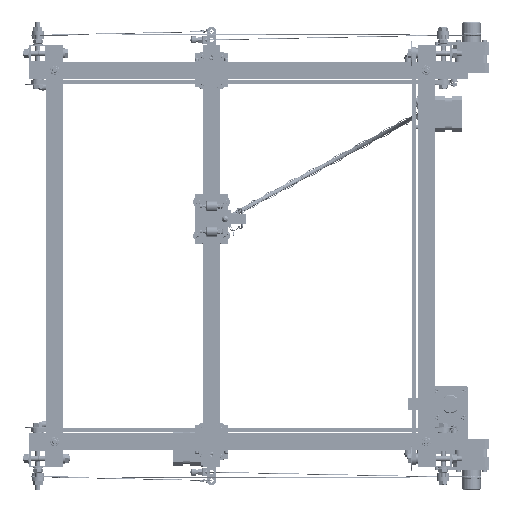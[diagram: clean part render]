
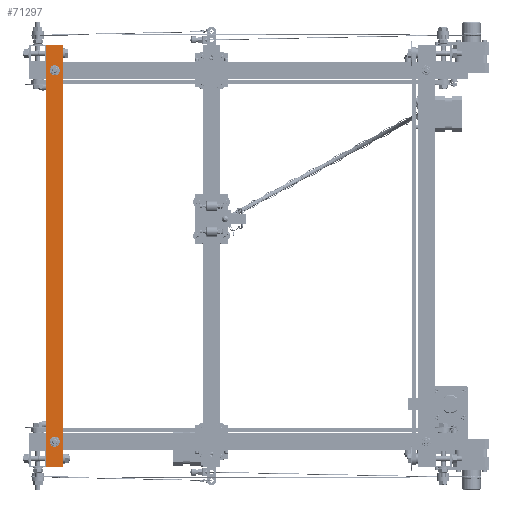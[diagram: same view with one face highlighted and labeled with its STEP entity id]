
A CAD part, front view. The second image highlights one B-rep face of the part: STEP entity #71297.
In plain terms, the highlighted planar face has unit normal (0, -1, 0).
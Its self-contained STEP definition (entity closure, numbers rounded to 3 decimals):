
#678 = DIRECTION ( 'NONE',  ( 1., 0., 0. ) ) ;
#1839 = DIRECTION ( 'NONE',  ( 1., 0., 0. ) ) ;
#2275 = EDGE_CURVE ( 'NONE', #51339, #40775, #56649, .T. ) ;
#3670 = CARTESIAN_POINT ( 'NONE',  ( 0., -10., 223.25 ) ) ;
#5833 = DIRECTION ( 'NONE',  ( 0., 0., 1. ) ) ;
#6580 = FACE_OUTER_BOUND ( 'NONE', #69085, .T. ) ;
#7910 = VECTOR ( 'NONE', #64139, 1000. ) ;
#9268 = VERTEX_POINT ( 'NONE', #30485 ) ;
#9823 = EDGE_CURVE ( 'NONE', #75407, #11825, #11180, .T. ) ;
#10258 = VERTEX_POINT ( 'NONE', #3670 ) ;
#11086 = LINE ( 'NONE', #68873, #57906 ) ;
#11180 = LINE ( 'NONE', #54720, #39817 ) ;
#11825 = VERTEX_POINT ( 'NONE', #63597 ) ;
#12060 = ORIENTED_EDGE ( 'NONE', *, *, #2275, .F. ) ;
#12403 = CIRCLE ( 'NONE', #38873, 3.25 ) ;
#13430 = CARTESIAN_POINT ( 'NONE',  ( 0., -10., -223.25 ) ) ;
#14058 = DIRECTION ( 'NONE',  ( 0., -1., 0. ) ) ;
#15354 = CIRCLE ( 'NONE', #47641, 3.25 ) ;
#16771 = AXIS2_PLACEMENT_3D ( 'NONE', #73873, #37215, #678 ) ;
#19451 = DIRECTION ( 'NONE',  ( 1., 0., 0. ) ) ;
#19533 = EDGE_CURVE ( 'NONE', #26659, #72131, #78657, .T. ) ;
#21339 = CARTESIAN_POINT ( 'NONE',  ( -10., -10., -250. ) ) ;
#22458 = EDGE_CURVE ( 'NONE', #72131, #26659, #12403, .T. ) ;
#24718 = AXIS2_PLACEMENT_3D ( 'NONE', #61675, #25014, #67801 ) ;
#25014 = DIRECTION ( 'NONE',  ( 0., -1., 0. ) ) ;
#25320 = ORIENTED_EDGE ( 'NONE', *, *, #63954, .T. ) ;
#25633 = CARTESIAN_POINT ( 'NONE',  ( -10., -10., -250. ) ) ;
#25706 = CARTESIAN_POINT ( 'NONE',  ( 0., -10., -216.75 ) ) ;
#26386 = CARTESIAN_POINT ( 'NONE',  ( 0., -10., 220. ) ) ;
#26659 = VERTEX_POINT ( 'NONE', #25706 ) ;
#27076 = EDGE_LOOP ( 'NONE', ( #29749, #41038 ) ) ;
#27296 = CIRCLE ( 'NONE', #24718, 3.25 ) ;
#27683 = ORIENTED_EDGE ( 'NONE', *, *, #76084, .F. ) ;
#27715 = EDGE_CURVE ( 'NONE', #9268, #10258, #27296, .T. ) ;
#28075 = CARTESIAN_POINT ( 'NONE',  ( 10., -10., -250. ) ) ;
#29749 = ORIENTED_EDGE ( 'NONE', *, *, #19533, .F. ) ;
#30485 = CARTESIAN_POINT ( 'NONE',  ( 0., -10., 216.75 ) ) ;
#31298 = VECTOR ( 'NONE', #19451, 1000. ) ;
#31747 = CARTESIAN_POINT ( 'NONE',  ( 10., -10., 250. ) ) ;
#32531 = DIRECTION ( 'NONE',  ( 1., 0., 0. ) ) ;
#33122 = DIRECTION ( 'NONE',  ( 0., -1., 0. ) ) ;
#34940 = CARTESIAN_POINT ( 'NONE',  ( -10., -10., 250. ) ) ;
#37035 = EDGE_CURVE ( 'NONE', #40775, #11825, #47551, .T. ) ;
#37215 = DIRECTION ( 'NONE',  ( 0., -1., 0. ) ) ;
#38873 = AXIS2_PLACEMENT_3D ( 'NONE', #69762, #33122, #75914 ) ;
#39817 = VECTOR ( 'NONE', #5833, 1000. ) ;
#40775 = VERTEX_POINT ( 'NONE', #34940 ) ;
#41038 = ORIENTED_EDGE ( 'NONE', *, *, #22458, .F. ) ;
#42369 = PLANE ( 'NONE',  #78691 ) ;
#42630 = DIRECTION ( 'NONE',  ( 1., 0., 0. ) ) ;
#47551 = LINE ( 'NONE', #31747, #31298 ) ;
#47641 = AXIS2_PLACEMENT_3D ( 'NONE', #26386, #69161, #32531 ) ;
#51339 = VERTEX_POINT ( 'NONE', #25633 ) ;
#51785 = ORIENTED_EDGE ( 'NONE', *, *, #9823, .T. ) ;
#53392 = FACE_BOUND ( 'NONE', #75981, .T. ) ;
#54720 = CARTESIAN_POINT ( 'NONE',  ( 10., -10., -250. ) ) ;
#56649 = LINE ( 'NONE', #21339, #7910 ) ;
#57037 = ORIENTED_EDGE ( 'NONE', *, *, #37035, .F. ) ;
#57906 = VECTOR ( 'NONE', #1839, 1000. ) ;
#58196 = ORIENTED_EDGE ( 'NONE', *, *, #27715, .F. ) ;
#61675 = CARTESIAN_POINT ( 'NONE',  ( 0., -10., 220. ) ) ;
#63597 = CARTESIAN_POINT ( 'NONE',  ( 10., -10., 250. ) ) ;
#63954 = EDGE_CURVE ( 'NONE', #51339, #75407, #11086, .T. ) ;
#64139 = DIRECTION ( 'NONE',  ( 0., 0., 1. ) ) ;
#67001 = CARTESIAN_POINT ( 'NONE',  ( 10., -10., -250. ) ) ;
#67801 = DIRECTION ( 'NONE',  ( 1., 0., 0. ) ) ;
#68873 = CARTESIAN_POINT ( 'NONE',  ( 10., -10., -250. ) ) ;
#69085 = EDGE_LOOP ( 'NONE', ( #57037, #12060, #25320, #51785 ) ) ;
#69161 = DIRECTION ( 'NONE',  ( 0., -1., 0. ) ) ;
#69762 = CARTESIAN_POINT ( 'NONE',  ( 0., -10., -220. ) ) ;
#71297 = ADVANCED_FACE ( 'NONE', ( #73505, #53392, #6580 ), #42369, .T. ) ;
#72131 = VERTEX_POINT ( 'NONE', #13430 ) ;
#73505 = FACE_BOUND ( 'NONE', #27076, .T. ) ;
#73873 = CARTESIAN_POINT ( 'NONE',  ( 0., -10., -220. ) ) ;
#75407 = VERTEX_POINT ( 'NONE', #28075 ) ;
#75914 = DIRECTION ( 'NONE',  ( 1., 0., 0. ) ) ;
#75981 = EDGE_LOOP ( 'NONE', ( #27683, #58196 ) ) ;
#76084 = EDGE_CURVE ( 'NONE', #10258, #9268, #15354, .T. ) ;
#78657 = CIRCLE ( 'NONE', #16771, 3.25 ) ;
#78691 = AXIS2_PLACEMENT_3D ( 'NONE', #67001, #14058, #42630 ) ;
